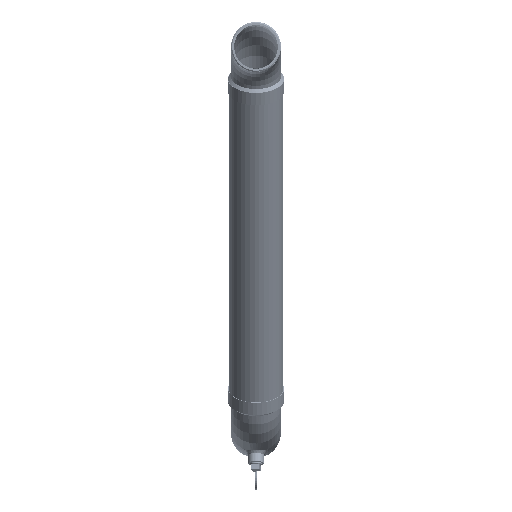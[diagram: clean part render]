
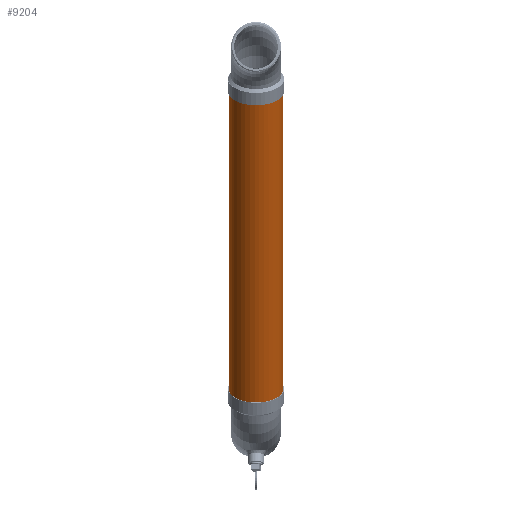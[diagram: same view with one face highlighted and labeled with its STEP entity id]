
A CAD part, front view. The second image highlights one B-rep face of the part: STEP entity #9204.
In plain terms, the highlighted cylindrical face has radius 48.92 mm (diameter 97.841 mm), a full revolution.
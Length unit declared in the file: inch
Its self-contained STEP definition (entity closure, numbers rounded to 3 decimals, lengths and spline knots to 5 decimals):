
#9177=CARTESIAN_POINT('',(0.0,0.0,0.0));
#9178=DIRECTION('',(0.0,0.0,1.0));
#9179=DIRECTION('',(-1.0,0.0,0.0));
#9180=AXIS2_PLACEMENT_3D('',#9177,#9178,#9179);
#9181=CYLINDRICAL_SURFACE('',#9180,1.926);
#9182=CARTESIAN_POINT('',(1.926,0.,26.197));
#9183=VERTEX_POINT('',#9182);
#9184=CARTESIAN_POINT('',(0.0,0.0,26.197));
#9185=DIRECTION('',(0.0,0.0,-1.0));
#9186=DIRECTION('',(-1.0,0.0,0.0));
#9187=AXIS2_PLACEMENT_3D('',#9184,#9185,#9186);
#9188=CIRCLE('',#9187,1.926);
#9189=EDGE_CURVE('',#9183,#9183,#9188,.T.);
#9190=ORIENTED_EDGE('',*,*,#9189,.T.);
#9191=EDGE_LOOP('',(#9190));
#9192=FACE_OUTER_BOUND('',#9191,.T.);
#9193=CARTESIAN_POINT('',(1.926,0.,0.0));
#9194=VERTEX_POINT('',#9193);
#9195=CARTESIAN_POINT('',(0.0,0.0,0.0));
#9196=DIRECTION('',(0.0,0.0,-1.0));
#9197=DIRECTION('',(-1.0,0.0,0.0));
#9198=AXIS2_PLACEMENT_3D('',#9195,#9196,#9197);
#9199=CIRCLE('',#9198,1.926);
#9200=EDGE_CURVE('',#9194,#9194,#9199,.T.);
#9201=ORIENTED_EDGE('',*,*,#9200,.F.);
#9202=EDGE_LOOP('',(#9201));
#9203=FACE_BOUND('',#9202,.T.);
#9204=ADVANCED_FACE('',(#9192,#9203),#9181,.T.);
